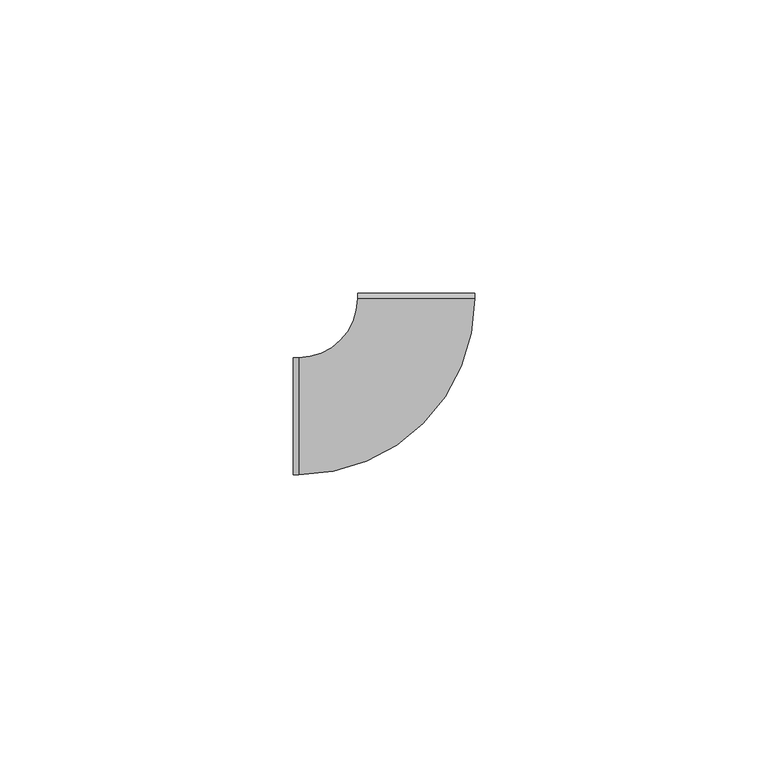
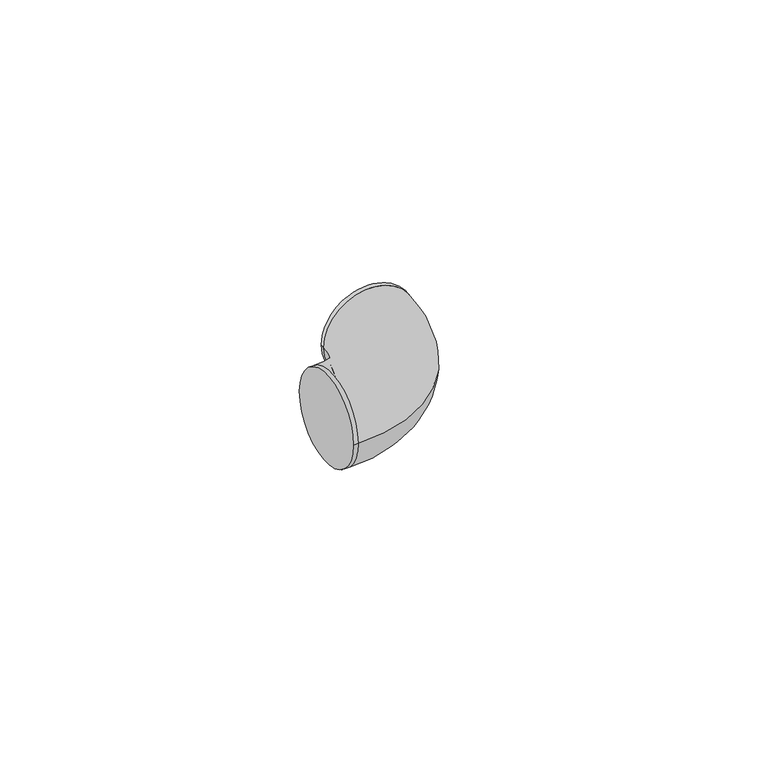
"""IFC4 building model written with IfcOpenShell, lengths in millimetres: cable carrier fitting geometry, ADSK_Поворот_Минимальный размер : Неспецифицируемый."""

from ifc_helpers import new_model, si_unit, point, frame, origin, place, context, project, spatial, circle_curve, ellipse_curve, trimmed, source, transform, mapped, element, save
from ifc_brep_helpers import plane_surface, cylinder_surface, revolved_surface, advanced_brep


def cable_carrier_fitting_5316ecec(model_context):
    return source(origin(), model_context, "Body", "AdvancedBrep", [
        advanced_brep(
        [(-21.0000014, -10.0, 0.0), (-21.0000014, 10.0, 0.0), (-20.0000014, -10.0, 0.0), (-20.0000014, 10.0, 0.0), (-10.0000014, 20.0000007, 0.0), (9.9999986, 20.0000021, 0.0), (9.9999986, 21.0000021, 0.0), (-10.0000014, 21.0000007, 0.0)],
        [
            (0, 1, circle_curve(frame((-21.0000014, 0.0, 0.0), z_axis=(-1.0, -4.92260399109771e-12, 0.0), x_axis=(-4.92260399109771e-12, 1.0, 0.0)), 10.0)),
            (1, 0, circle_curve(frame((-21.0000014, 0.0, 0.0), z_axis=(-1.0, -4.92260399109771e-12, 0.0), x_axis=(-4.92260399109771e-12, 1.0, 0.0)), 10.0)),
            (0, 2),
            (2, 3, circle_curve(frame((-20.0000014, 0.0, 0.0), z_axis=(-1.0, -4.92260399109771e-12, 0.0), x_axis=(-4.92260399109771e-12, 1.0, 0.0)), 10.0)),
            (3, 1),
            (3, 2, circle_curve(frame((-20.0000014, 0.0, 0.0), z_axis=(-1.0, -4.92260399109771e-12, 0.0), x_axis=(-4.92260399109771e-12, 1.0, 0.0)), 10.0)),
            (4, 3, circle_curve(frame((-20.0000014, 20.0, 0.0), z_axis=(0.0, 0.0, -1.0), x_axis=(0.0, -1.0, 0.0)), 10.0)),
            (2, 5, circle_curve(frame((-20.0000014, 20.0, 0.0), z_axis=(0.0, 0.0, 1.0), x_axis=(0.0, -1.0, 0.0)), 30.0)),
            (5, 4, circle_curve(frame((-1.4e-06, 20.0000014, 0.0), z_axis=(6.904432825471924e-08, -0.9999999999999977, 0.0), x_axis=(-0.9999999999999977, -6.904432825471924e-08, 0.0)), 10.0)),
            (4, 5, circle_curve(frame((-1.4e-06, 20.0000014, 0.0), z_axis=(6.904432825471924e-08, -0.9999999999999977, 0.0), x_axis=(-0.9999999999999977, -6.904432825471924e-08, 0.0)), 10.0)),
            (6, 7, circle_curve(frame((-1.4e-06, 21.0000014, 0.0), z_axis=(-6.904432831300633e-08, 0.9999999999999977, 0.0), x_axis=(-0.9999999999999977, -6.904432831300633e-08, 0.0)), 10.0)),
            (7, 6, circle_curve(frame((-1.4e-06, 21.0000014, 0.0), z_axis=(-6.904432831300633e-08, 0.9999999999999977, 0.0), x_axis=(-0.9999999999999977, -6.904432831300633e-08, 0.0)), 10.0)),
            (5, 6),
            (7, 4),
        ],
        [
            plane_surface(frame((-21.0000014, 0.0, 0.0), z_axis=(-1.0, -4.92260399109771e-12, 0.0), x_axis=(0.0, 0.0, 1.0))),
            cylinder_surface(frame((-21.0000014, 0.0, 0.0), z_axis=(-1.0, -4.92260399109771e-12, 0.0), x_axis=(-4.92260399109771e-12, 1.0, 0.0)), 10.0),
            revolved_surface(trimmed(ellipse_curve(frame((-20.0000014, 0.0, 0.0), z_axis=(-1.0, 0.0, 0.0), x_axis=(0.0, 1.0, 0.0)), 10.0, 10.0), [point((-20.0000014, -10.0, 0.0))], [point((-20.0000014, 10.0, 0.0))], True, "CARTESIAN"), (-20.0000014, 20.0, 0.0), (0.0, 0.0, 1.0)),
            revolved_surface(trimmed(ellipse_curve(frame((-20.0000014, 0.0, 0.0), z_axis=(-1.0, 0.0, 0.0), x_axis=(0.0, 1.0, 0.0)), 10.0, 10.0), [point((-20.0000014, 10.0, 0.0))], [point((-20.0000014, -10.0, 0.0))], True, "CARTESIAN"), (-20.0000014, 20.0, 0.0), (0.0, 0.0, 1.0)),
            plane_surface(frame((-1.4e-06, 21.0000014, 0.0), z_axis=(-6.904432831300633e-08, 0.9999999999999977, 0.0), x_axis=(0.0, 0.0, 1.0))),
            cylinder_surface(frame((-1.4e-06, 20.0000014, 0.0), z_axis=(6.904432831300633e-08, -0.9999999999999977, 0.0), x_axis=(-0.9999999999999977, -6.904432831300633e-08, 0.0)), 10.0),
        ],
        [
            (0, [[1, 2]]),
            (1, [[-1, 3, 4, 5]]),
            (1, [[-2, -5, 6, -3]]),
            (2, [[7, -4, 8, 9]]),
            (3, [[-8, -6, -7, 10]]),
            (4, [[11, 12]]),
            (5, [[-9, 13, -12, 14]]),
            (5, [[-10, -14, -11, -13]]),
        ],
    ),
    ])


if __name__ == "__main__":
    model = new_model("IFC4")
    model_context = context("Model", 3, world=origin())
    ifc_project = project(units=[si_unit("LENGTHUNIT", "METRE", prefix="MILLI")], contexts=[model_context])
    site = spatial("IfcSite", under=ifc_project)
    building = spatial("IfcBuilding", under=site)
    placement = place(None, origin())
    cable_carrier_fitting_shape = cable_carrier_fitting_5316ecec(model_context)
    element("IfcCableCarrierFitting", 1, ObjectType="ADSK_Поворот_Минимальный размер : Неспецифицируемый", at=placement, inside=building, context=model_context, shape_type="MappedRepresentation", body=[
        mapped(cable_carrier_fitting_shape, transform((0.0, 0.0, 0.0), x_axis=(1.0, 0.0, 0.0), y_axis=(0.0, 1.0, 0.0), z_axis=(0.0, 0.0, 1.0))),
    ])
    save(model, "model.ifc")
